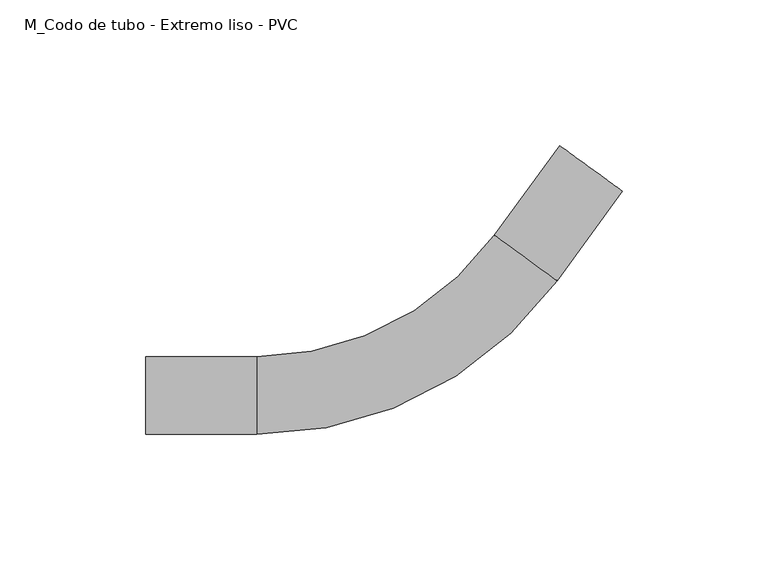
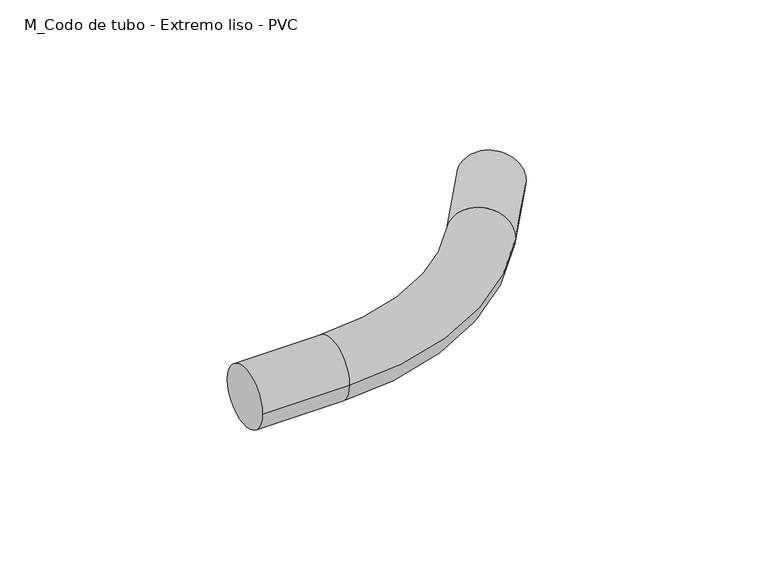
"""IFC4 building model written with IfcOpenShell, lengths in millimetres: cable carrier fitting geometry, M_Codo de tubo - Extremo liso - PVC : CODO ILUMINACION."""

from ifc_helpers import new_model, si_unit, point, frame, origin, place, context, project, spatial, circle_curve, ellipse_curve, trimmed, source, transform, mapped, element, save
from ifc_brep_helpers import plane_surface, cylinder_surface, revolved_surface, advanced_brep


def m_codo_de_tubo_extremo_liso_pvc_7e29693c(model_context):
    return source(origin(), model_context, "Body", "AdvancedBrep", [
        advanced_brep(
        [(-96.3387589, -13.335, 0.0), (-96.3387589, 13.335, 0.0), (-58.2387589, -13.335, 0.0), (-58.2387589, 13.335, 0.0), (23.443642, 54.954262, 0.0), (45.0201252, 39.2780293, 0.0), (67.4147433, 70.1015768, 0.0), (45.8382601, 85.7778095, 0.0)],
        [
            (0, 1, circle_curve(frame((-96.3387589, 0.0, 0.0), z_axis=(-1.0, 0.0, 0.0), x_axis=(0.0, 1.0, 0.0)), 13.335)),
            (1, 0, circle_curve(frame((-96.3387589, 0.0, 0.0), z_axis=(-1.0, 0.0, 0.0), x_axis=(0.0, 1.0, 0.0)), 13.335)),
            (0, 2),
            (2, 3, circle_curve(frame((-58.2387589, 0.0, 0.0), z_axis=(-1.0, 0.0, 0.0), x_axis=(0.0, 1.0, 0.0)), 13.335)),
            (3, 1),
            (3, 2, circle_curve(frame((-58.2387589, 0.0, 0.0), z_axis=(-1.0, 0.0, 0.0), x_axis=(0.0, 1.0, 0.0)), 13.335)),
            (4, 3, circle_curve(frame((-58.2387589, 114.3, 0.0), z_axis=(0.0, 0.0, -1.0), x_axis=(0.0, -1.0, 0.0)), 100.965)),
            (2, 5, circle_curve(frame((-58.2387589, 114.3, 0.0), z_axis=(0.0, 0.0, 1.0), x_axis=(0.0, -1.0, 0.0)), 127.635)),
            (5, 4, circle_curve(frame((34.2318836, 47.1161457, 0.0), z_axis=(-0.5877852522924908, -0.8090169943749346, 0.0), x_axis=(-0.8090169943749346, 0.5877852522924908, 0.0)), 13.335)),
            (4, 5, circle_curve(frame((34.2318836, 47.1161457, 0.0), z_axis=(-0.5877852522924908, -0.8090169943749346, 0.0), x_axis=(-0.8090169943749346, 0.5877852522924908, 0.0)), 13.335)),
            (6, 7, circle_curve(frame((56.6265017, 77.9396931, 0.0), z_axis=(0.5877852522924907, 0.8090169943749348, 0.0), x_axis=(-0.8090169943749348, 0.5877852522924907, 0.0)), 13.335)),
            (7, 6, circle_curve(frame((56.6265017, 77.9396931, 0.0), z_axis=(0.5877852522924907, 0.8090169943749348, 0.0), x_axis=(-0.8090169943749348, 0.5877852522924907, 0.0)), 13.335)),
            (5, 6),
            (7, 4),
        ],
        [
            plane_surface(frame((-96.3387589, 0.0, 0.0), z_axis=(-1.0, 0.0, 0.0), x_axis=(0.0, 0.0, 1.0))),
            cylinder_surface(frame((-96.3387589, 0.0, 0.0), z_axis=(-1.0, 0.0, 0.0), x_axis=(0.0, 1.0, 0.0)), 13.335),
            revolved_surface(trimmed(ellipse_curve(frame((-58.2387589, 0.0, 0.0), z_axis=(-1.0, 0.0, 0.0), x_axis=(0.0, 1.0, 0.0)), 13.335, 13.335), [point((-58.2387589, -13.335, 0.0))], [point((-58.2387589, 13.335, 0.0))], True, "CARTESIAN"), (-58.2387589, 114.3, 0.0), (0.0, 0.0, 1.0)),
            revolved_surface(trimmed(ellipse_curve(frame((-58.2387589, 0.0, 0.0), z_axis=(-1.0, 0.0, 0.0), x_axis=(0.0, 1.0, 0.0)), 13.335, 13.335), [point((-58.2387589, 13.335, 0.0))], [point((-58.2387589, -13.335, 0.0))], True, "CARTESIAN"), (-58.2387589, 114.3, 0.0), (0.0, 0.0, 1.0)),
            plane_surface(frame((56.6265017, 77.9396931, 0.0), z_axis=(0.5877852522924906, 0.8090169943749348, 0.0), x_axis=(0.0, 0.0, 1.0))),
            cylinder_surface(frame((34.2318836, 47.1161457, 0.0), z_axis=(-0.5877852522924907, -0.8090169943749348, 0.0), x_axis=(-0.8090169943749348, 0.5877852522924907, 0.0)), 13.335),
        ],
        [
            (0, [[1, 2]]),
            (1, [[-1, 3, 4, 5]]),
            (1, [[-2, -5, 6, -3]]),
            (2, [[7, -4, 8, 9]]),
            (3, [[-8, -6, -7, 10]]),
            (4, [[11, 12]]),
            (5, [[-9, 13, -12, 14]]),
            (5, [[-10, -14, -11, -13]]),
        ],
    ),
    ])


if __name__ == "__main__":
    model = new_model("IFC4")
    model_context = context("Model", 3, world=origin())
    ifc_project = project(units=[si_unit("LENGTHUNIT", "METRE", prefix="MILLI")], contexts=[model_context])
    site = spatial("IfcSite", under=ifc_project)
    building = spatial("IfcBuilding", under=site)
    placement = place(None, origin())
    m_codo_de_tubo_extremo_liso_pvc_shape = m_codo_de_tubo_extremo_liso_pvc_7e29693c(model_context)
    element("IfcCableCarrierFitting", 1, ObjectType="M_Codo de tubo - Extremo liso - PVC : CODO ILUMINACION", at=placement, inside=building, context=model_context, shape_type="MappedRepresentation", body=[
        mapped(m_codo_de_tubo_extremo_liso_pvc_shape, transform((0.0, 0.0, 0.0), x_axis=(1.0, 0.0, 0.0), y_axis=(0.0, 1.0, 0.0), z_axis=(0.0, 0.0, 1.0))),
    ])
    save(model, "model.ifc")
